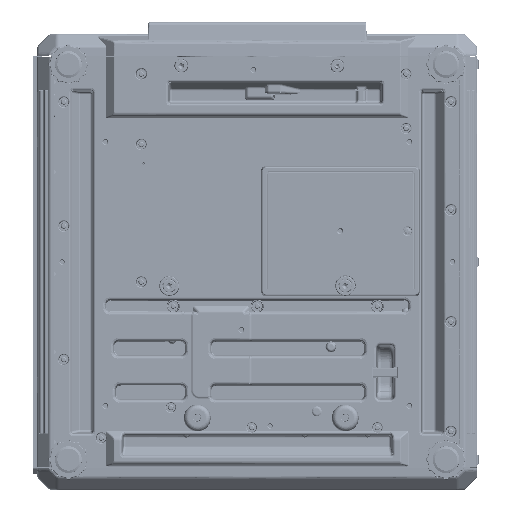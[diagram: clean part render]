
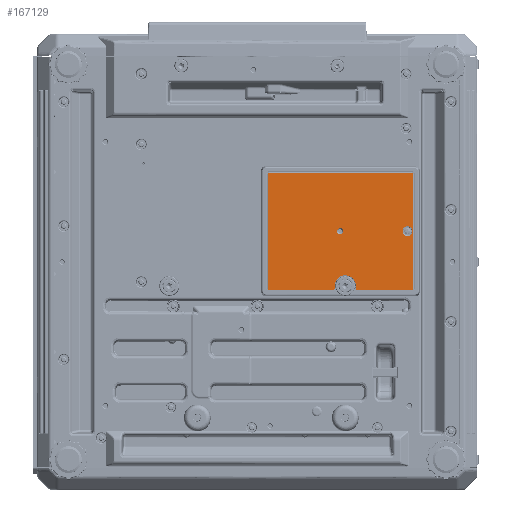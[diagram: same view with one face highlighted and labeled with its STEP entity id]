
A CAD part, front view. The second image highlights one B-rep face of the part: STEP entity #167129.
In plain terms, the highlighted planar face has unit normal (0, -1, 0).
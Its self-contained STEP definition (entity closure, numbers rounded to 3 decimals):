
#89202=ELLIPSE('',#363332,1.504,1.5);
#89203=ELLIPSE('',#363333,1.504,1.5);
#89204=ELLIPSE('',#363335,1.504,1.5);
#89205=ELLIPSE('',#363336,1.504,1.5);
#94600=PLANE('',#363337);
#129688=LINE('',#554976,#155862);
#129689=LINE('',#554981,#155863);
#129690=LINE('',#554985,#155864);
#129691=LINE('',#555029,#155865);
#129692=LINE('',#555033,#155866);
#155862=VECTOR('',#437875,1.);
#155863=VECTOR('',#437878,1.);
#155864=VECTOR('',#437881,1.);
#155865=VECTOR('',#437884,1.);
#155866=VECTOR('',#437887,1.);
#167129=ADVANCED_FACE('',(#174634,#174635,#174636),#94600,.F.);
#171139=B_SPLINE_CURVE_WITH_KNOTS('',3,(#554987,#554988,#554989,#554990,
#554991,#554992,#554993,#554994,#554995,#554996,#554997,#554998,#554999,
#555000,#555001,#555002,#555003,#555004,#555005),.UNSPECIFIED.,.F.,.F.,
(4,3,3,3,3,3,4),(0.,0.054,0.243,0.432,
0.621,0.811,1.),.UNSPECIFIED.);
#171140=B_SPLINE_CURVE_WITH_KNOTS('',3,(#555009,#555010,#555011,#555012,
#555013,#555014,#555015,#555016,#555017,#555018,#555019,#555020,#555021,
#555022,#555023,#555024,#555025,#555026,#555027),.UNSPECIFIED.,.F.,.F.,
(4,3,3,3,3,3,4),(0.,0.054,0.243,0.432,
0.621,0.811,1.),.UNSPECIFIED.);
#174634=FACE_BOUND('',#186270,.T.);
#174635=FACE_BOUND('',#186271,.T.);
#174636=FACE_BOUND('',#186272,.T.);
#186270=EDGE_LOOP('',(#239242));
#186271=EDGE_LOOP('',(#239243));
#186272=EDGE_LOOP('',(#239244,#239245,#239246,#239247,#239248,#239249,#239250,
#239251,#239252,#239253,#239254,#239255));
#239242=ORIENTED_EDGE('',*,*,#325155,.T.);
#239243=ORIENTED_EDGE('',*,*,#325156,.T.);
#239244=ORIENTED_EDGE('',*,*,#325157,.T.);
#239245=ORIENTED_EDGE('',*,*,#325158,.T.);
#239246=ORIENTED_EDGE('',*,*,#325159,.T.);
#239247=ORIENTED_EDGE('',*,*,#325160,.T.);
#239248=ORIENTED_EDGE('',*,*,#325161,.T.);
#239249=ORIENTED_EDGE('',*,*,#325162,.T.);
#239250=ORIENTED_EDGE('',*,*,#325163,.T.);
#239251=ORIENTED_EDGE('',*,*,#325164,.T.);
#239252=ORIENTED_EDGE('',*,*,#325165,.T.);
#239253=ORIENTED_EDGE('',*,*,#325166,.T.);
#239254=ORIENTED_EDGE('',*,*,#325167,.T.);
#239255=ORIENTED_EDGE('',*,*,#325168,.T.);
#279310=VERTEX_POINT('',#554972);
#279311=VERTEX_POINT('',#554975);
#279312=VERTEX_POINT('',#554977);
#279313=VERTEX_POINT('',#554978);
#279314=VERTEX_POINT('',#554980);
#279315=VERTEX_POINT('',#554982);
#279316=VERTEX_POINT('',#554984);
#279317=VERTEX_POINT('',#554986);
#279318=VERTEX_POINT('',#555006);
#279319=VERTEX_POINT('',#555008);
#279320=VERTEX_POINT('',#555028);
#279321=VERTEX_POINT('',#555030);
#279322=VERTEX_POINT('',#555032);
#279323=VERTEX_POINT('',#555034);
#325155=EDGE_CURVE('',#279310,#279310,#338520,.T.);
#325156=EDGE_CURVE('',#279311,#279311,#338521,.T.);
#325157=EDGE_CURVE('',#279312,#279313,#129688,.T.);
#325158=EDGE_CURVE('',#279313,#279314,#89202,.T.);
#325159=EDGE_CURVE('',#279314,#279315,#129689,.T.);
#325160=EDGE_CURVE('',#279315,#279316,#89203,.T.);
#325161=EDGE_CURVE('',#279316,#279317,#129690,.T.);
#325162=EDGE_CURVE('',#279317,#279318,#171139,.T.);
#325163=EDGE_CURVE('',#279318,#279319,#338522,.T.);
#325164=EDGE_CURVE('',#279319,#279320,#171140,.T.);
#325165=EDGE_CURVE('',#279320,#279321,#129691,.T.);
#325166=EDGE_CURVE('',#279321,#279322,#89204,.T.);
#325167=EDGE_CURVE('',#279322,#279323,#129692,.T.);
#325168=EDGE_CURVE('',#279323,#279312,#89205,.T.);
#338520=CIRCLE('',#363329,4.);
#338521=CIRCLE('',#363331,6.125);
#338522=CIRCLE('',#363334,13.358);
#363329=AXIS2_PLACEMENT_3D('',#554971,#437869,#437870);
#363331=AXIS2_PLACEMENT_3D('',#554974,#437873,#437874);
#363332=AXIS2_PLACEMENT_3D('',#554979,#437876,#437877);
#363333=AXIS2_PLACEMENT_3D('',#554983,#437879,#437880);
#363334=AXIS2_PLACEMENT_3D('',#555007,#437882,#437883);
#363335=AXIS2_PLACEMENT_3D('',#555031,#437885,#437886);
#363336=AXIS2_PLACEMENT_3D('',#555035,#437888,#437889);
#363337=AXIS2_PLACEMENT_3D('',#555036,#437890,#437891);
#437869=DIRECTION('',(0.,1.,0.));
#437870=DIRECTION('',(0.,0.,1.));
#437873=DIRECTION('',(0.,1.,0.));
#437874=DIRECTION('',(0.,0.,1.));
#437875=DIRECTION('',(-1.,0.,0.));
#437876=DIRECTION('',(0.,-1.,0.));
#437877=DIRECTION('',(0.707,0.,-0.707));
#437878=DIRECTION('',(0.,0.,-1.));
#437879=DIRECTION('',(0.,-1.,0.));
#437880=DIRECTION('',(-0.707,0.,-0.707));
#437881=DIRECTION('',(1.,0.,0.));
#437882=DIRECTION('',(0.,1.,0.));
#437883=DIRECTION('',(0.,0.,1.));
#437884=DIRECTION('',(1.,0.,0.));
#437885=DIRECTION('',(0.,-1.,0.));
#437886=DIRECTION('',(-0.707,0.,0.707));
#437887=DIRECTION('',(0.,0.,1.));
#437888=DIRECTION('',(0.,-1.,0.));
#437889=DIRECTION('',(-0.707,0.,-0.707));
#437890=DIRECTION('',(0.,1.,0.));
#437891=DIRECTION('',(0.,0.,1.));
#554971=CARTESIAN_POINT('',(103.8,-116.5,-1.5));
#554972=CARTESIAN_POINT('',(103.8,-116.5,2.5));
#554974=CARTESIAN_POINT('',(187.8,-116.5,-1.5));
#554975=CARTESIAN_POINT('',(187.8,-116.5,4.625));
#554976=CARTESIAN_POINT('',(110.,-116.5,71.642));
#554977=CARTESIAN_POINT('',(193.644,-116.5,71.642));
#554978=CARTESIAN_POINT('',(14.356,-116.5,71.642));
#554979=CARTESIAN_POINT('',(14.36,-116.5,70.14));
#554980=CARTESIAN_POINT('',(12.858,-116.5,70.144));
#554981=CARTESIAN_POINT('',(12.858,-116.5,-70.));
#554982=CARTESIAN_POINT('',(12.858,-116.5,-73.144));
#554983=CARTESIAN_POINT('',(14.36,-116.5,-73.14));
#554984=CARTESIAN_POINT('',(14.356,-116.5,-74.642));
#554985=CARTESIAN_POINT('',(110.,-116.5,-74.642));
#554986=CARTESIAN_POINT('',(95.481,-116.5,-74.642));
#554987=CARTESIAN_POINT('',(95.481,-116.5,-74.642));
#554988=CARTESIAN_POINT('',(95.529,-116.5,-74.642));
#554989=CARTESIAN_POINT('',(95.578,-116.5,-74.64));
#554990=CARTESIAN_POINT('',(95.627,-116.5,-74.635));
#554991=CARTESIAN_POINT('',(95.794,-116.5,-74.619));
#554992=CARTESIAN_POINT('',(95.96,-116.5,-74.574));
#554993=CARTESIAN_POINT('',(96.112,-116.5,-74.503));
#554994=CARTESIAN_POINT('',(96.264,-116.5,-74.433));
#554995=CARTESIAN_POINT('',(96.405,-116.5,-74.335));
#554996=CARTESIAN_POINT('',(96.525,-116.5,-74.219));
#554997=CARTESIAN_POINT('',(96.645,-116.5,-74.102));
#554998=CARTESIAN_POINT('',(96.747,-116.5,-73.963));
#554999=CARTESIAN_POINT('',(96.822,-116.5,-73.813));
#555000=CARTESIAN_POINT('',(96.897,-116.5,-73.662));
#555001=CARTESIAN_POINT('',(96.947,-116.5,-73.497));
#555002=CARTESIAN_POINT('',(96.967,-116.5,-73.33));
#555003=CARTESIAN_POINT('',(96.988,-116.5,-73.164));
#555004=CARTESIAN_POINT('',(96.98,-116.5,-72.991));
#555005=CARTESIAN_POINT('',(96.945,-116.5,-72.827));
#555006=CARTESIAN_POINT('',(96.945,-116.5,-72.827));
#555007=CARTESIAN_POINT('',(110.,-116.5,-70.));
#555008=CARTESIAN_POINT('',(123.055,-116.5,-72.827));
#555009=CARTESIAN_POINT('',(123.055,-116.5,-72.827));
#555010=CARTESIAN_POINT('',(123.045,-116.5,-72.875));
#555011=CARTESIAN_POINT('',(123.037,-116.5,-72.923));
#555012=CARTESIAN_POINT('',(123.031,-116.5,-72.972));
#555013=CARTESIAN_POINT('',(123.012,-116.5,-73.138));
#555014=CARTESIAN_POINT('',(123.021,-116.5,-73.31));
#555015=CARTESIAN_POINT('',(123.058,-116.5,-73.473));
#555016=CARTESIAN_POINT('',(123.094,-116.5,-73.637));
#555017=CARTESIAN_POINT('',(123.159,-116.5,-73.796));
#555018=CARTESIAN_POINT('',(123.248,-116.5,-73.938));
#555019=CARTESIAN_POINT('',(123.337,-116.5,-74.08));
#555020=CARTESIAN_POINT('',(123.451,-116.5,-74.209));
#555021=CARTESIAN_POINT('',(123.582,-116.5,-74.313));
#555022=CARTESIAN_POINT('',(123.713,-116.5,-74.418));
#555023=CARTESIAN_POINT('',(123.864,-116.5,-74.502));
#555024=CARTESIAN_POINT('',(124.023,-116.5,-74.558));
#555025=CARTESIAN_POINT('',(124.181,-116.5,-74.613));
#555026=CARTESIAN_POINT('',(124.351,-116.5,-74.642));
#555027=CARTESIAN_POINT('',(124.519,-116.5,-74.642));
#555028=CARTESIAN_POINT('',(124.519,-116.5,-74.642));
#555029=CARTESIAN_POINT('',(110.,-116.5,-74.642));
#555030=CARTESIAN_POINT('',(193.644,-116.5,-74.642));
#555031=CARTESIAN_POINT('',(193.64,-116.5,-73.14));
#555032=CARTESIAN_POINT('',(195.142,-116.5,-73.144));
#555033=CARTESIAN_POINT('',(195.142,-116.5,-70.));
#555034=CARTESIAN_POINT('',(195.142,-116.5,70.144));
#555035=CARTESIAN_POINT('',(193.64,-116.5,70.14));
#555036=CARTESIAN_POINT('',(110.,-116.5,-70.));
